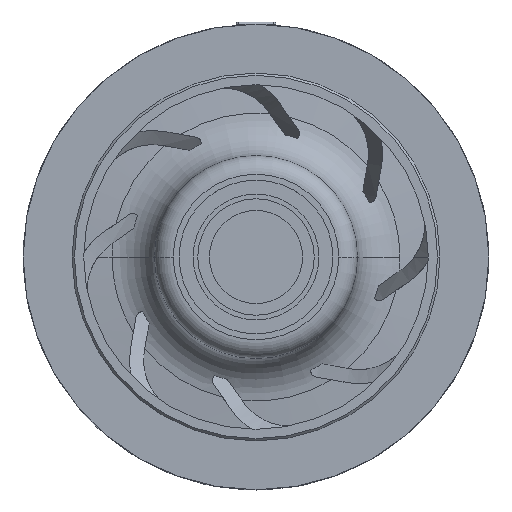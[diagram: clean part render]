
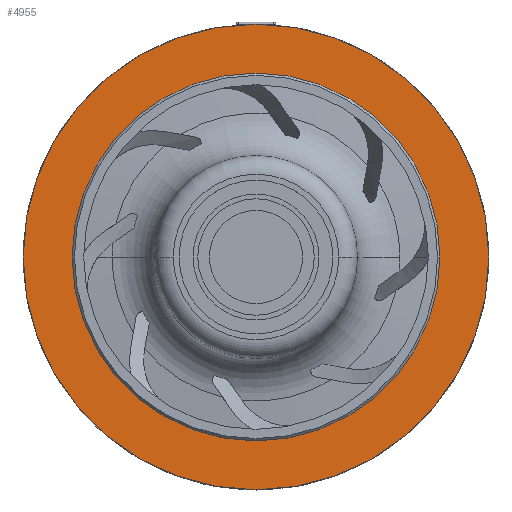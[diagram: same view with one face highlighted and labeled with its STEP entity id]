
A CAD part, top view. The second image highlights one B-rep face of the part: STEP entity #4955.
In plain terms, the highlighted planar face has unit normal (0, 0, 1).
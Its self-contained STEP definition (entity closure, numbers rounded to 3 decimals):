
#216 = DIRECTION ( 'NONE',  ( -1., 0., 0. ) ) ;
#1020 = DIRECTION ( 'NONE',  ( 0., 0., -1. ) ) ;
#1152 = EDGE_CURVE ( 'NONE', #3091, #1743, #1532, .T. ) ;
#1342 = FACE_BOUND ( 'NONE', #6710, .T. ) ;
#1416 = CARTESIAN_POINT ( 'NONE',  ( -39.5, 0., 25.1 ) ) ;
#1532 = CIRCLE ( 'NONE', #4385, 50. ) ;
#1743 = VERTEX_POINT ( 'NONE', #1763 ) ;
#1752 = AXIS2_PLACEMENT_3D ( 'NONE', #4065, #2183, #6671 ) ;
#1763 = CARTESIAN_POINT ( 'NONE',  ( -50., 0., 25.1 ) ) ;
#1856 = AXIS2_PLACEMENT_3D ( 'NONE', #3381, #7875, #4013 ) ;
#2015 = ORIENTED_EDGE ( 'NONE', *, *, #6729, .F. ) ;
#2183 = DIRECTION ( 'NONE',  ( 0., 0., -1. ) ) ;
#2745 = AXIS2_PLACEMENT_3D ( 'NONE', #2815, #7300, #3437 ) ;
#2759 = ORIENTED_EDGE ( 'NONE', *, *, #5508, .T. ) ;
#2815 = CARTESIAN_POINT ( 'NONE',  ( 0., 0., 25.1 ) ) ;
#2937 = CARTESIAN_POINT ( 'NONE',  ( 50., 0., 25.1 ) ) ;
#3015 = VERTEX_POINT ( 'NONE', #1416 ) ;
#3091 = VERTEX_POINT ( 'NONE', #2937 ) ;
#3381 = CARTESIAN_POINT ( 'NONE',  ( 0., 0., 25.1 ) ) ;
#3435 = CIRCLE ( 'NONE', #2745, 39.5 ) ;
#3437 = DIRECTION ( 'NONE',  ( -1., 0., 0. ) ) ;
#4013 = DIRECTION ( 'NONE',  ( -1., 0., 0. ) ) ;
#4052 = DIRECTION ( 'NONE',  ( 0., 0., -1. ) ) ;
#4065 = CARTESIAN_POINT ( 'NONE',  ( 39.5, 0., 25.1 ) ) ;
#4131 = CIRCLE ( 'NONE', #5565, 39.5 ) ;
#4385 = AXIS2_PLACEMENT_3D ( 'NONE', #4865, #1020, #5517 ) ;
#4418 = EDGE_CURVE ( 'NONE', #3015, #5309, #4131, .T. ) ;
#4460 = CARTESIAN_POINT ( 'NONE',  ( 39.5, 0., 25.1 ) ) ;
#4517 = EDGE_LOOP ( 'NONE', ( #2015, #7113 ) ) ;
#4865 = CARTESIAN_POINT ( 'NONE',  ( 0., 0., 25.1 ) ) ;
#4955 = ADVANCED_FACE ( 'NONE', ( #6456, #1342 ), #7930, .F. ) ;
#5309 = VERTEX_POINT ( 'NONE', #4460 ) ;
#5508 = EDGE_CURVE ( 'NONE', #5309, #3015, #3435, .T. ) ;
#5517 = DIRECTION ( 'NONE',  ( -1., 0., 0. ) ) ;
#5565 = AXIS2_PLACEMENT_3D ( 'NONE', #7915, #4052, #216 ) ;
#6456 = FACE_OUTER_BOUND ( 'NONE', #4517, .T. ) ;
#6639 = CIRCLE ( 'NONE', #1856, 50. ) ;
#6671 = DIRECTION ( 'NONE',  ( -1., 0., 0. ) ) ;
#6710 = EDGE_LOOP ( 'NONE', ( #6898, #2759 ) ) ;
#6729 = EDGE_CURVE ( 'NONE', #1743, #3091, #6639, .T. ) ;
#6898 = ORIENTED_EDGE ( 'NONE', *, *, #4418, .T. ) ;
#7113 = ORIENTED_EDGE ( 'NONE', *, *, #1152, .F. ) ;
#7300 = DIRECTION ( 'NONE',  ( 0., 0., -1. ) ) ;
#7875 = DIRECTION ( 'NONE',  ( 0., 0., -1. ) ) ;
#7915 = CARTESIAN_POINT ( 'NONE',  ( 0., 0., 25.1 ) ) ;
#7930 = PLANE ( 'NONE',  #1752 ) ;
